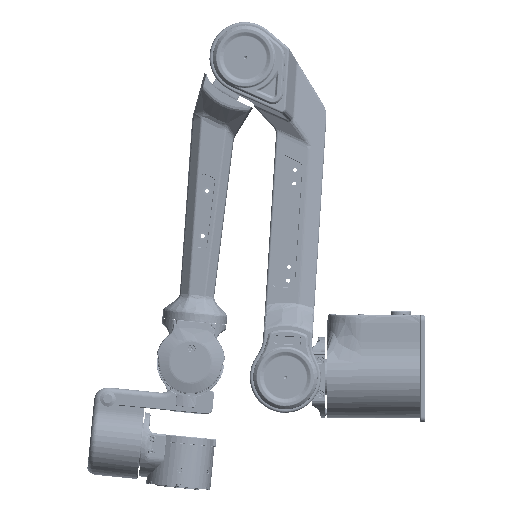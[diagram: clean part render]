
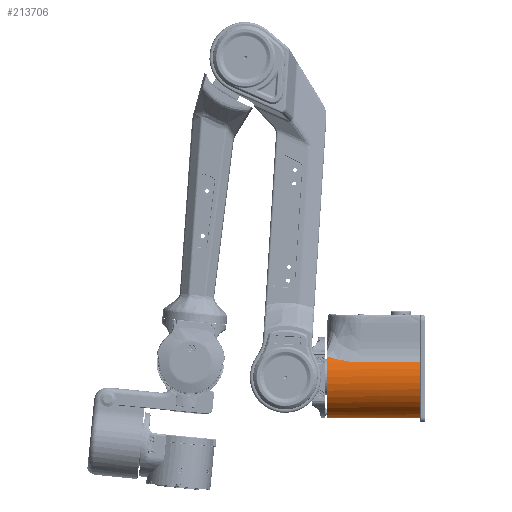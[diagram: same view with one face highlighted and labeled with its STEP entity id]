
A CAD part, left-side view. The second image highlights one B-rep face of the part: STEP entity #213706.
In plain terms, the highlighted cylindrical face has radius 36 mm (diameter 72 mm), a partial arc.
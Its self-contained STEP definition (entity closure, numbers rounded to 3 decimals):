
#1970 = CARTESIAN_POINT ( 'NONE',  ( 0., 70., 0. ) ) ;
#4261 = VERTEX_POINT ( 'NONE', #222358 ) ;
#4798 = CARTESIAN_POINT ( 'NONE',  ( -33.437, 57.11, 13.343 ) ) ;
#5547 = ORIENTED_EDGE ( 'NONE', *, *, #144368, .F. ) ;
#7610 = LINE ( 'NONE', #301499, #293308 ) ;
#8524 = CARTESIAN_POINT ( 'NONE',  ( -33.488, 54.561, 13.211 ) ) ;
#9410 = CYLINDRICAL_SURFACE ( 'NONE', #229286, 36. ) ;
#10068 = VERTEX_POINT ( 'NONE', #283616 ) ;
#13135 = DIRECTION ( 'NONE',  ( 0., 1., 0. ) ) ;
#13237 = CARTESIAN_POINT ( 'NONE',  ( 0., 82., 0. ) ) ;
#15346 = B_SPLINE_CURVE_WITH_KNOTS ( 'NONE', 3,
 ( #82093, #117869, #372290, #170714, #232824, #172580, #312016, #29250, #347818, #285603, #176346, #114096, #345953, #340331, #168824, #283718 ),
 .UNSPECIFIED., .F., .F.,
 ( 4, 2, 2, 2, 2, 2, 2, 4 ),
 ( 0., 0., 0.001, 0.001, 0.002, 0.002, 0.002, 0.003 ),
 .UNSPECIFIED. ) ;
#21827 = ORIENTED_EDGE ( 'NONE', *, *, #175937, .F. ) ;
#25986 = EDGE_CURVE ( 'NONE', #317491, #178135, #208467, .T. ) ;
#29250 = CARTESIAN_POINT ( 'NONE',  ( 0.263, 76.026, -35.999 ) ) ;
#31499 = VERTEX_POINT ( 'NONE', #344852 ) ;
#33124 = CARTESIAN_POINT ( 'NONE',  ( 33.488, 54.559, 13.211 ) ) ;
#36702 = VERTEX_POINT ( 'NONE', #93190 ) ;
#38151 = ORIENTED_EDGE ( 'NONE', *, *, #161677, .T. ) ;
#40525 = CARTESIAN_POINT ( 'NONE',  ( -32.673, 69.728, 15.123 ) ) ;
#48585 = CIRCLE ( 'NONE', #355614, 36. ) ;
#59542 = CARTESIAN_POINT ( 'NONE',  ( 33.437, 57.117, 13.344 ) ) ;
#61301 = ORIENTED_EDGE ( 'NONE', *, *, #220066, .T. ) ;
#65128 = CARTESIAN_POINT ( 'NONE',  ( -33.488, 52., 13.211 ) ) ;
#65202 = DIRECTION ( 'NONE',  ( 0., -1., 0. ) ) ;
#68093 = VECTOR ( 'NONE', #144984, 1000. ) ;
#82093 = CARTESIAN_POINT ( 'NONE',  ( 1., 77., -35.986 ) ) ;
#86357 = AXIS2_PLACEMENT_3D ( 'NONE', #289057, #324793, #230680 ) ;
#91548 = CARTESIAN_POINT ( 'NONE',  ( 33.08, 64.715, 14.211 ) ) ;
#93190 = CARTESIAN_POINT ( 'NONE',  ( -1., 77., -35.986 ) ) ;
#93407 = CARTESIAN_POINT ( 'NONE',  ( 31.045, 82., 18.227 ) ) ;
#95824 = ORIENTED_EDGE ( 'NONE', *, *, #340458, .F. ) ;
#109628 = CARTESIAN_POINT ( 'NONE',  ( 1., 82., -35.986 ) ) ;
#114096 = CARTESIAN_POINT ( 'NONE',  ( -0.503, 76.126, -35.997 ) ) ;
#114824 = ORIENTED_EDGE ( 'NONE', *, *, #303196, .F. ) ;
#117869 = CARTESIAN_POINT ( 'NONE',  ( 1., 76.868, -35.986 ) ) ;
#119804 = CARTESIAN_POINT ( 'NONE',  ( 33.233, 62.194, 13.845 ) ) ;
#120732 = DIRECTION ( 'NONE',  ( 0., -1., 0. ) ) ;
#122457 = CIRCLE ( 'NONE', #86357, 36. ) ;
#124906 = CARTESIAN_POINT ( 'NONE',  ( 1., 77., -35.986 ) ) ;
#133141 = ORIENTED_EDGE ( 'NONE', *, *, #25986, .F. ) ;
#144368 = EDGE_CURVE ( 'NONE', #160959, #317491, #48585, .T. ) ;
#144984 = DIRECTION ( 'NONE',  ( 0., 1., 0. ) ) ;
#145087 = CARTESIAN_POINT ( 'NONE',  ( 33.488, 0., 13.211 ) ) ;
#148160 = CARTESIAN_POINT ( 'NONE',  ( -32.42, 72.208, 15.665 ) ) ;
#160959 = VERTEX_POINT ( 'NONE', #339204 ) ;
#161677 = EDGE_CURVE ( 'NONE', #10068, #249952, #7610, .T. ) ;
#167404 = ORIENTED_EDGE ( 'NONE', *, *, #332824, .T. ) ;
#168824 = CARTESIAN_POINT ( 'NONE',  ( -1., 76.736, -35.986 ) ) ;
#170714 = CARTESIAN_POINT ( 'NONE',  ( 0.874, 76.496, -35.989 ) ) ;
#172580 = CARTESIAN_POINT ( 'NONE',  ( 0.615, 76.201, -35.995 ) ) ;
#172662 = CARTESIAN_POINT ( 'NONE',  ( 31.455, 79.576, 17.528 ) ) ;
#172963 = VERTEX_POINT ( 'NONE', #145087 ) ;
#173240 = LINE ( 'NONE', #288117, #68093 ) ;
#175724 = EDGE_CURVE ( 'NONE', #172963, #10068, #122457, .T. ) ;
#175937 = EDGE_CURVE ( 'NONE', #36702, #4261, #173240, .T. ) ;
#176346 = CARTESIAN_POINT ( 'NONE',  ( -0.261, 76.026, -35.999 ) ) ;
#178135 = VERTEX_POINT ( 'NONE', #124906 ) ;
#178531 = CARTESIAN_POINT ( 'NONE',  ( 33.488, 70., 13.211 ) ) ;
#180356 = LINE ( 'NONE', #178531, #209119 ) ;
#183868 = CARTESIAN_POINT ( 'NONE',  ( -31.811, 77.131, 16.867 ) ) ;
#184691 = CARTESIAN_POINT ( 'NONE',  ( 0., 82., 0. ) ) ;
#188713 = EDGE_LOOP ( 'NONE', ( #114824, #133141, #5547, #313702, #167404, #266107, #38151, #61301, #95824, #21827 ) ) ;
#200949 = CARTESIAN_POINT ( 'NONE',  ( 31.811, 77.135, 16.868 ) ) ;
#205217 = CARTESIAN_POINT ( 'NONE',  ( -33.488, 52., 13.211 ) ) ;
#208467 = LINE ( 'NONE', #254228, #276632 ) ;
#209119 = VECTOR ( 'NONE', #293411, 1000. ) ;
#209247 = CARTESIAN_POINT ( 'NONE',  ( 33.488, 52., 13.211 ) ) ;
#213706 = ADVANCED_FACE ( 'NONE', ( #350710 ), #9410, .T. ) ;
#220066 = EDGE_CURVE ( 'NONE', #249952, #31499, #330530, .T. ) ;
#222358 = CARTESIAN_POINT ( 'NONE',  ( -1., 82., -35.986 ) ) ;
#229286 = AXIS2_PLACEMENT_3D ( 'NONE', #1970, #120732, #231981 ) ;
#230680 = DIRECTION ( 'NONE',  ( 0., 0., 1. ) ) ;
#231981 = DIRECTION ( 'NONE',  ( 0., 0., -1. ) ) ;
#232824 = CARTESIAN_POINT ( 'NONE',  ( 0.799, 76.385, -35.991 ) ) ;
#234524 = B_SPLINE_CURVE_WITH_KNOTS ( 'NONE', 3,
 ( #93407, #172662, #200949, #287535, #319621, #91548, #119804, #59542, #33124, #234794 ),
 .UNSPECIFIED., .F., .F.,
 ( 4, 2, 2, 2, 4 ),
 ( 0., 0.008, 0.015, 0.023, 0.031 ),
 .UNSPECIFIED. ) ;
#234794 = CARTESIAN_POINT ( 'NONE',  ( 33.488, 52., 13.211 ) ) ;
#243179 = DIRECTION ( 'NONE',  ( 0., 0., 1. ) ) ;
#249952 = VERTEX_POINT ( 'NONE', #205217 ) ;
#252204 = EDGE_CURVE ( 'NONE', #160959, #300253, #234524, .T. ) ;
#253554 = AXIS2_PLACEMENT_3D ( 'NONE', #184691, #269441, #299550 ) ;
#254228 = CARTESIAN_POINT ( 'NONE',  ( 1., 70., -35.986 ) ) ;
#263058 = CARTESIAN_POINT ( 'NONE',  ( -31.455, 79.575, 17.528 ) ) ;
#266107 = ORIENTED_EDGE ( 'NONE', *, *, #175724, .T. ) ;
#266772 = CARTESIAN_POINT ( 'NONE',  ( -33.08, 64.72, 14.212 ) ) ;
#269441 = DIRECTION ( 'NONE',  ( 0., 1., 0. ) ) ;
#271643 = CIRCLE ( 'NONE', #253554, 36. ) ;
#276632 = VECTOR ( 'NONE', #65202, 1000. ) ;
#283616 = CARTESIAN_POINT ( 'NONE',  ( -33.488, 0., 13.211 ) ) ;
#283718 = CARTESIAN_POINT ( 'NONE',  ( -1., 77., -35.986 ) ) ;
#285603 = CARTESIAN_POINT ( 'NONE',  ( -0.13, 76., -36. ) ) ;
#287535 = CARTESIAN_POINT ( 'NONE',  ( 32.42, 72.213, 15.666 ) ) ;
#288117 = CARTESIAN_POINT ( 'NONE',  ( -1., 70., -35.986 ) ) ;
#289057 = CARTESIAN_POINT ( 'NONE',  ( 0., 0., 0. ) ) ;
#293308 = VECTOR ( 'NONE', #13135, 1000. ) ;
#293411 = DIRECTION ( 'NONE',  ( 0., -1., 0. ) ) ;
#296914 = CARTESIAN_POINT ( 'NONE',  ( -31.045, 82., 18.227 ) ) ;
#298725 = CARTESIAN_POINT ( 'NONE',  ( -33.233, 62.187, 13.844 ) ) ;
#299550 = DIRECTION ( 'NONE',  ( 0., 0., 1. ) ) ;
#300253 = VERTEX_POINT ( 'NONE', #209247 ) ;
#301499 = CARTESIAN_POINT ( 'NONE',  ( -33.488, 70., 13.211 ) ) ;
#303196 = EDGE_CURVE ( 'NONE', #178135, #36702, #15346, .T. ) ;
#312016 = CARTESIAN_POINT ( 'NONE',  ( 0.503, 76.126, -35.997 ) ) ;
#313702 = ORIENTED_EDGE ( 'NONE', *, *, #252204, .T. ) ;
#317491 = VERTEX_POINT ( 'NONE', #109628 ) ;
#319621 = CARTESIAN_POINT ( 'NONE',  ( 32.673, 69.728, 15.123 ) ) ;
#324793 = DIRECTION ( 'NONE',  ( 0., 1., 0. ) ) ;
#330530 = B_SPLINE_CURVE_WITH_KNOTS ( 'NONE', 3,
 ( #65128, #8524, #4798, #298725, #266772, #40525, #148160, #183868, #263058, #296914 ),
 .UNSPECIFIED., .F., .F.,
 ( 4, 2, 2, 2, 4 ),
 ( 0., 0.008, 0.015, 0.023, 0.031 ),
 .UNSPECIFIED. ) ;
#331715 = DIRECTION ( 'NONE',  ( 0., 1., 0. ) ) ;
#332824 = EDGE_CURVE ( 'NONE', #300253, #172963, #180356, .T. ) ;
#339204 = CARTESIAN_POINT ( 'NONE',  ( 31.045, 82., 18.227 ) ) ;
#340331 = CARTESIAN_POINT ( 'NONE',  ( -0.893, 76.479, -35.989 ) ) ;
#340458 = EDGE_CURVE ( 'NONE', #4261, #31499, #271643, .T. ) ;
#344852 = CARTESIAN_POINT ( 'NONE',  ( -31.045, 82., 18.227 ) ) ;
#345953 = CARTESIAN_POINT ( 'NONE',  ( -0.613, 76.199, -35.995 ) ) ;
#347818 = CARTESIAN_POINT ( 'NONE',  ( 0.131, 76., -36. ) ) ;
#350710 = FACE_OUTER_BOUND ( 'NONE', #188713, .T. ) ;
#355614 = AXIS2_PLACEMENT_3D ( 'NONE', #13237, #331715, #243179 ) ;
#372290 = CARTESIAN_POINT ( 'NONE',  ( 0.974, 76.738, -35.987 ) ) ;
